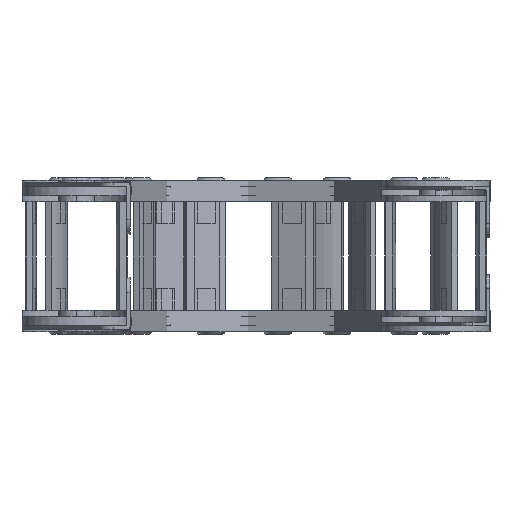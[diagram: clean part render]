
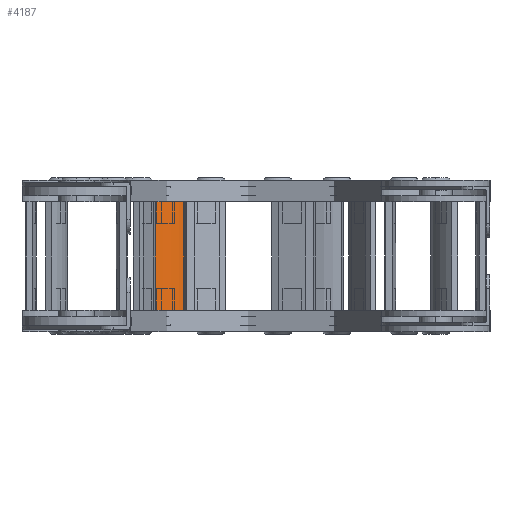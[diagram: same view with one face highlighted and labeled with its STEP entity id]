
A CAD part, left-side view. The second image highlights one B-rep face of the part: STEP entity #4187.
In plain terms, the highlighted cylindrical face has radius 52 mm (diameter 104 mm), a partial arc.
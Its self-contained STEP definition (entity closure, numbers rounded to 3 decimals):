
#4001=CARTESIAN_POINT('',(38.75,85.,0.));
#4002=DIRECTION('',(0.,0.,-1.));
#4003=DIRECTION('',(0.346,-0.938,0.));
#4004=AXIS2_PLACEMENT_3D('',#4001,#4002,#4003);
#4044=DIRECTION('',(0.,0.,-1.));
#4045=VECTOR('',#4044,90.2);
#4046=CARTESIAN_POINT('',(56.75,36.215,0.));
#4047=LINE('',#4046,#4045);
#4051=DIRECTION('',(0.,0.,1.));
#4052=VECTOR('',#4051,90.2);
#4053=CARTESIAN_POINT('',(20.75,36.215,-90.2));
#4054=LINE('',#4053,#4052);
#4079=CARTESIAN_POINT('',(38.75,85.,-90.2));
#4080=DIRECTION('',(0.,0.,1.));
#4081=DIRECTION('',(-0.346,-0.938,0.));
#4082=AXIS2_PLACEMENT_3D('',#4079,#4080,#4081);
#4130=CARTESIAN_POINT('',(56.75,36.215,-90.2));
#4132=VERTEX_POINT('',#4130);
#4133=CARTESIAN_POINT('',(20.75,36.215,-90.2));
#4134=VERTEX_POINT('',#4133);
#4141=CARTESIAN_POINT('',(56.75,36.215,0.));
#4142=VERTEX_POINT('',#4141);
#4145=CARTESIAN_POINT('',(20.75,36.215,0.));
#4146=VERTEX_POINT('',#4145);
#4173=CARTESIAN_POINT('',(38.75,85.,-15.2));
#4174=DIRECTION('',(0.,0.,1.));
#4175=DIRECTION('',(1.,0.,0.));
#4176=AXIS2_PLACEMENT_3D('',#4173,#4174,#4175);
#4177=CYLINDRICAL_SURFACE('',#4176,52.);
#4179=ORIENTED_EDGE('',*,*,#4178,.T.);
#4181=ORIENTED_EDGE('',*,*,#4180,.F.);
#4183=ORIENTED_EDGE('',*,*,#4182,.T.);
#4184=ORIENTED_EDGE('',*,*,#4158,.F.);
#4185=EDGE_LOOP('',(#4179,#4181,#4183,#4184));
#4186=FACE_OUTER_BOUND('',#4185,.F.);
#4187=ADVANCED_FACE('',(#4186),#4177,.T.);
#4005=CIRCLE('',#4004,52.);
#4083=CIRCLE('',#4082,52.);
#4158=EDGE_CURVE('',#4142,#4146,#4005,.T.);
#4178=EDGE_CURVE('',#4142,#4132,#4047,.T.);
#4180=EDGE_CURVE('',#4134,#4132,#4083,.T.);
#4182=EDGE_CURVE('',#4134,#4146,#4054,.T.);
